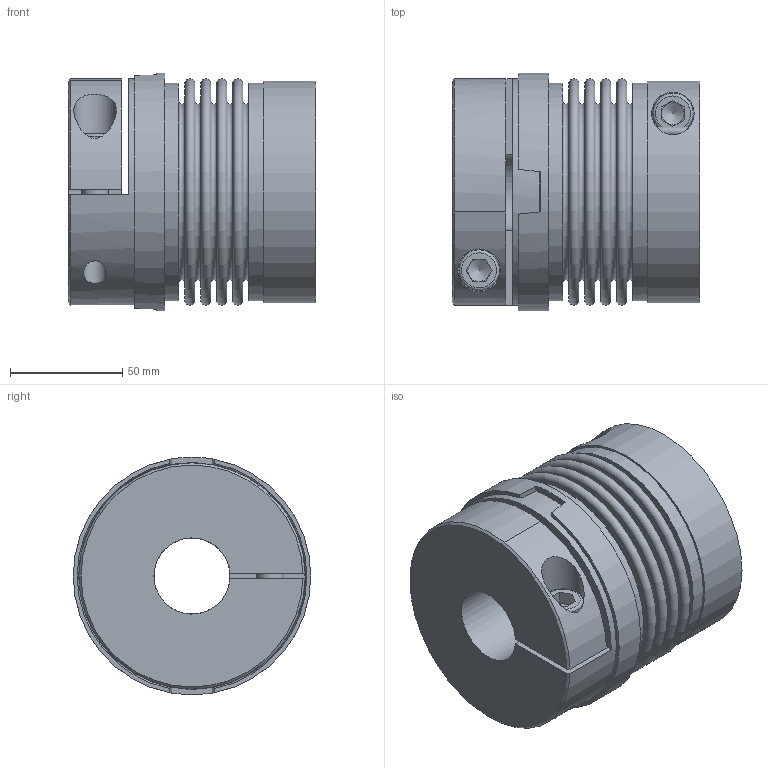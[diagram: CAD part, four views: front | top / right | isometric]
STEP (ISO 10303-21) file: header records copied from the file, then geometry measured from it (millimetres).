
FILE_DESCRIPTION( ( 'Unknown' ), '1' );
FILE_NAME( 'F:/JAKOB-STEP+IGES-Dateien/STEP-Dateien/KPP/KPP 400.stp', 'Unknown', ( 'Unknown' ), ( 'Unknown' ), 'PSStep 10.1', 'Unknown', ' ' );
FILE_SCHEMA( ( 'AUTOMOTIVE_DESIGN { 1 0 10303 214 1 1 1 1 }' ) );
Length unit declared in the file: millimetre
Products named in the file (1): KT102205
Bounding box: 110.5 x 106 x 106 mm (x, y, z)
Volume: 532068.4 mm3; surface area: 154898.1 mm2
Topology: 1 solids, 1 shells, 135 faces, 311 edges, 201 vertices
Faces by surface type: plane 86, cylinder 22, torus 22, cone 5
Full cylindrical faces by diameter (mm): 10.2 x2, 12 x2, 12.5 x2, 18 x2, 19 x2, 34 x1, 55 x1, 97.2 x2, 101 x1, 106 x1
Entity records: 5022 total; most frequent: CARTESIAN_POINT 1019, DIRECTION 648, ORIENTED_EDGE 508, AXIS2_PLACEMENT_3D 268, EDGE_CURVE 254, EDGE_LOOP 205, VERTEX_POINT 185, FACE_OUTER_BOUND 170
